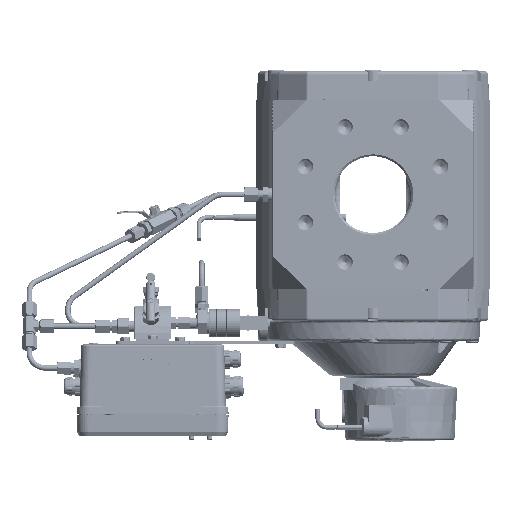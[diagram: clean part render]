
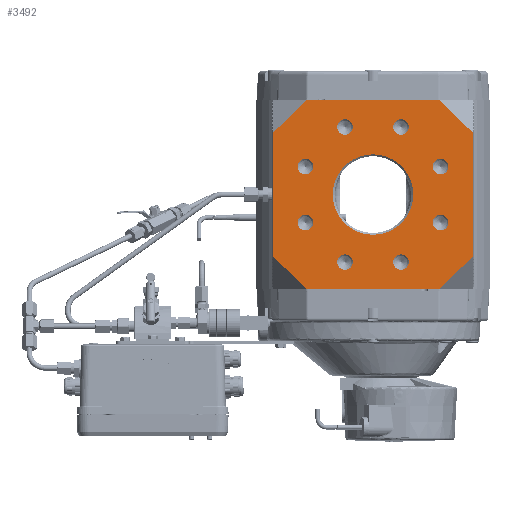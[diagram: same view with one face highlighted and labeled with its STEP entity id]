
A CAD part, front view. The second image highlights one B-rep face of the part: STEP entity #3492.
In plain terms, the highlighted planar face has unit normal (0, -1, 0).
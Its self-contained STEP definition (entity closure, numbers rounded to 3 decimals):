
#3492=ADVANCED_FACE('',(#91437,#91439,#91441,#91443,#91445,#91447,#91449,#91451,
#91453,#91455),#91457,.T.);
#91437=FACE_BOUND('',#91438,.T.);
#91438=EDGE_LOOP('',(#216925,#216926,#216927,#216928,#216929,#216930,#216931,#216932));
#91439=FACE_BOUND('',#91440,.T.);
#91440=EDGE_LOOP('',(#216933));
#91441=FACE_BOUND('',#91442,.T.);
#91442=EDGE_LOOP('',(#216934));
#91443=FACE_BOUND('',#91444,.T.);
#91444=EDGE_LOOP('',(#216935));
#91445=FACE_BOUND('',#91446,.T.);
#91446=EDGE_LOOP('',(#216936));
#91447=FACE_BOUND('',#91448,.T.);
#91448=EDGE_LOOP('',(#216937));
#91449=FACE_BOUND('',#91450,.T.);
#91450=EDGE_LOOP('',(#216938));
#91451=FACE_BOUND('',#91452,.T.);
#91452=EDGE_LOOP('',(#216939));
#91453=FACE_BOUND('',#91454,.T.);
#91454=EDGE_LOOP('',(#216940));
#91455=FACE_BOUND('',#91456,.T.);
#91456=EDGE_LOOP('',(#216941));
#91457=PLANE('',#91458);
#91458=AXIS2_PLACEMENT_3D('',#91459,#91460,#91461);
#91459=CARTESIAN_POINT('',(-160.843,-120.5,-211.));
#91460=DIRECTION('',(0.,-1.,0.));
#91461=DIRECTION('',(1.,0.,0.));
#216925=ORIENTED_EDGE('',*,*,#273095,.T.);
#216926=ORIENTED_EDGE('',*,*,#273096,.F.);
#216927=ORIENTED_EDGE('',*,*,#272911,.T.);
#216928=ORIENTED_EDGE('',*,*,#272662,.F.);
#216929=ORIENTED_EDGE('',*,*,#273075,.T.);
#216930=ORIENTED_EDGE('',*,*,#273097,.F.);
#216931=ORIENTED_EDGE('',*,*,#273098,.T.);
#216932=ORIENTED_EDGE('',*,*,#272715,.T.);
#216933=ORIENTED_EDGE('',*,*,#273099,.T.);
#216934=ORIENTED_EDGE('',*,*,#273100,.T.);
#216935=ORIENTED_EDGE('',*,*,#273101,.T.);
#216936=ORIENTED_EDGE('',*,*,#273102,.T.);
#216937=ORIENTED_EDGE('',*,*,#273103,.T.);
#216938=ORIENTED_EDGE('',*,*,#273104,.T.);
#216939=ORIENTED_EDGE('',*,*,#273105,.T.);
#216940=ORIENTED_EDGE('',*,*,#273106,.T.);
#216941=ORIENTED_EDGE('',*,*,#273107,.T.);
#272662=EDGE_CURVE('',#296715,#296447,#296717,.T.);
#272715=EDGE_CURVE('',#296820,#296818,#296821,.F.);
#272911=EDGE_CURVE('',#297182,#296447,#297183,.T.);
#273075=EDGE_CURVE('',#296715,#297375,#297376,.T.);
#273095=EDGE_CURVE('',#296818,#297414,#297415,.F.);
#273096=EDGE_CURVE('',#297182,#297414,#297416,.F.);
#273097=EDGE_CURVE('',#297417,#297375,#297418,.T.);
#273098=EDGE_CURVE('',#297417,#296820,#297419,.F.);
#273099=EDGE_CURVE('',#297420,#297420,#297421,.F.);
#273100=EDGE_CURVE('',#297422,#297422,#297423,.F.);
#273101=EDGE_CURVE('',#297424,#297424,#297425,.F.);
#273102=EDGE_CURVE('',#297426,#297426,#297427,.F.);
#273103=EDGE_CURVE('',#297428,#297428,#297429,.F.);
#273104=EDGE_CURVE('',#297430,#297430,#297431,.T.);
#273105=EDGE_CURVE('',#297432,#297432,#297433,.F.);
#273106=EDGE_CURVE('',#297434,#297434,#297435,.F.);
#273107=EDGE_CURVE('',#297436,#297436,#297437,.F.);
#296447=VERTEX_POINT('',#336895);
#296715=VERTEX_POINT('',#337559);
#296717=LINE('',#337563,#337564);
#296818=VERTEX_POINT('',#337862);
#296820=VERTEX_POINT('',#337866);
#296821=LINE('',#337867,#337868);
#297182=VERTEX_POINT('',#339537);
#297183=LINE('',#339538,#339539);
#297375=VERTEX_POINT('',#340533);
#297376=LINE('',#340534,#340535);
#297414=VERTEX_POINT('',#340631);
#297415=LINE('',#340632,#340633);
#297416=LINE('',#340635,#340636);
#297417=VERTEX_POINT('',#340638);
#297418=LINE('',#340639,#340640);
#297419=LINE('',#340642,#340643);
#297420=VERTEX_POINT('',#340645);
#297421=CIRCLE('',#340646,8.5);
#297422=VERTEX_POINT('',#340650);
#297423=CIRCLE('',#340651,8.5);
#297424=VERTEX_POINT('',#340655);
#297425=CIRCLE('',#340656,8.5);
#297426=VERTEX_POINT('',#340660);
#297427=CIRCLE('',#340661,8.5);
#297428=VERTEX_POINT('',#340665);
#297429=CIRCLE('',#340666,8.5);
#297430=VERTEX_POINT('',#340670);
#297431=CIRCLE('',#340671,44.);
#297432=VERTEX_POINT('',#340675);
#297433=CIRCLE('',#340676,8.5);
#297434=VERTEX_POINT('',#340680);
#297435=CIRCLE('',#340681,8.5);
#297436=VERTEX_POINT('',#340685);
#297437=CIRCLE('',#340686,8.5);
#336895=CARTESIAN_POINT('',(73.003,-120.5,0.));
#337559=CARTESIAN_POINT('',(-73.,-120.5,0.));
#337563=CARTESIAN_POINT('',(-73.,-120.5,0.));
#337564=VECTOR('',#337565,1.);
#337565=DIRECTION('',(1.,0.,0.));
#337862=CARTESIAN_POINT('',(73.003,-120.5,-206.));
#337866=CARTESIAN_POINT('',(-73.,-120.5,-206.));
#337867=CARTESIAN_POINT('',(73.003,-120.5,-206.));
#337868=VECTOR('',#337869,1.);
#337869=DIRECTION('',(-1.,0.,0.));
#339537=CARTESIAN_POINT('',(108.957,-120.5,-35.082));
#339538=CARTESIAN_POINT('',(108.957,-120.5,-35.082));
#339539=VECTOR('',#339540,1.);
#339540=DIRECTION('',(-0.716,0.,0.698));
#340533=CARTESIAN_POINT('',(-108.957,-120.5,-35.086));
#340534=CARTESIAN_POINT('',(-73.,-120.5,0.));
#340535=VECTOR('',#340536,1.);
#340536=DIRECTION('',(-0.716,0.,-0.698));
#340631=CARTESIAN_POINT('',(108.957,-120.5,-170.918));
#340632=CARTESIAN_POINT('',(108.957,-120.5,-170.918));
#340633=VECTOR('',#340634,1.);
#340634=DIRECTION('',(-0.716,0.,-0.698));
#340635=CARTESIAN_POINT('',(108.957,-120.5,-170.918));
#340636=VECTOR('',#340637,1.);
#340637=DIRECTION('',(0.,0.,1.));
#340638=CARTESIAN_POINT('',(-108.957,-120.5,-170.914));
#340639=CARTESIAN_POINT('',(-108.957,-120.5,-170.914));
#340640=VECTOR('',#340641,1.);
#340641=DIRECTION('',(0.,0.,1.));
#340642=CARTESIAN_POINT('',(-73.,-120.5,-206.));
#340643=VECTOR('',#340644,1.);
#340644=DIRECTION('',(-0.716,0.,0.698));
#340645=CARTESIAN_POINT('',(-24.607,-120.5,-23.097));
#340646=AXIS2_PLACEMENT_3D('',#340647,#340648,#340649);
#340647=CARTESIAN_POINT('',(-30.618,-120.5,-29.107));
#340648=DIRECTION('',(0.,-1.,0.));
#340649=DIRECTION('',(0.707,0.,0.707));
#340650=CARTESIAN_POINT('',(-79.903,-120.5,-127.607));
#340651=AXIS2_PLACEMENT_3D('',#340652,#340653,#340654);
#340652=CARTESIAN_POINT('',(-73.893,-120.5,-133.618));
#340653=DIRECTION('',(0.,-1.,0.));
#340654=DIRECTION('',(-0.707,0.,0.707));
#340655=CARTESIAN_POINT('',(24.607,-120.5,-182.903));
#340656=AXIS2_PLACEMENT_3D('',#340657,#340658,#340659);
#340657=CARTESIAN_POINT('',(30.618,-120.5,-176.893));
#340658=DIRECTION('',(0.,-1.,0.));
#340659=DIRECTION('',(-0.707,0.,-0.707));
#340660=CARTESIAN_POINT('',(79.903,-120.5,-78.393));
#340661=AXIS2_PLACEMENT_3D('',#340662,#340663,#340664);
#340662=CARTESIAN_POINT('',(73.893,-120.5,-72.382));
#340663=DIRECTION('',(0.,-1.,0.));
#340664=DIRECTION('',(0.707,0.,-0.707));
#340665=CARTESIAN_POINT('',(39.1,-120.5,-29.1));
#340666=AXIS2_PLACEMENT_3D('',#340667,#340668,#340669);
#340667=CARTESIAN_POINT('',(30.6,-120.5,-29.1));
#340668=DIRECTION('',(0.,-1.,0.));
#340669=DIRECTION('',(1.,0.,0.));
#340670=CARTESIAN_POINT('',(-44.,-120.5,-103.));
#340671=AXIS2_PLACEMENT_3D('',#340672,#340673,#340674);
#340672=CARTESIAN_POINT('',(0.,-120.5,-103.));
#340673=DIRECTION('',(0.,1.,0.));
#340674=DIRECTION('',(-1.,0.,0.));
#340675=CARTESIAN_POINT('',(73.9,-120.5,-142.1));
#340676=AXIS2_PLACEMENT_3D('',#340677,#340678,#340679);
#340677=CARTESIAN_POINT('',(73.9,-120.5,-133.6));
#340678=DIRECTION('',(0.,-1.,0.));
#340679=DIRECTION('',(0.,0.,-1.));
#340680=CARTESIAN_POINT('',(-39.1,-120.5,-176.9));
#340681=AXIS2_PLACEMENT_3D('',#340682,#340683,#340684);
#340682=CARTESIAN_POINT('',(-30.6,-120.5,-176.9));
#340683=DIRECTION('',(0.,-1.,0.));
#340684=DIRECTION('',(-1.,0.,0.));
#340685=CARTESIAN_POINT('',(-73.9,-120.5,-63.9));
#340686=AXIS2_PLACEMENT_3D('',#340687,#340688,#340689);
#340687=CARTESIAN_POINT('',(-73.9,-120.5,-72.4));
#340688=DIRECTION('',(0.,-1.,0.));
#340689=DIRECTION('',(0.,0.,1.));
